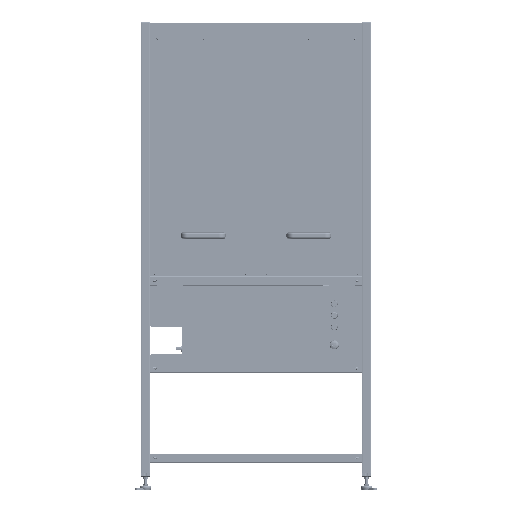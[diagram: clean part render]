
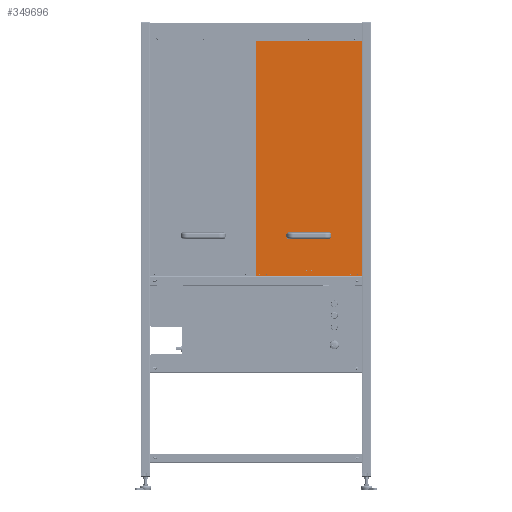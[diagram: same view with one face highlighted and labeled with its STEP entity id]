
A CAD part, top view. The second image highlights one B-rep face of the part: STEP entity #349696.
In plain terms, the highlighted planar face has unit normal (0, 0, 1) as drawn and (1, 0, 0) by its records, which use the part's own axes.
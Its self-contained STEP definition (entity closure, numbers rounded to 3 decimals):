
#11699=FACE_BOUND('',#55969,.T.);
#11700=FACE_BOUND('',#55970,.T.);
#11701=FACE_BOUND('',#55971,.T.);
#11702=FACE_BOUND('',#55972,.T.);
#11703=FACE_BOUND('',#55973,.T.);
#11704=FACE_BOUND('',#55974,.T.);
#11705=FACE_BOUND('',#55975,.T.);
#11706=FACE_BOUND('',#55976,.T.);
#11707=FACE_BOUND('',#55977,.T.);
#11708=FACE_BOUND('',#55978,.T.);
#11709=FACE_BOUND('',#55979,.T.);
#19451=CIRCLE('',#379215,2.05);
#19453=CIRCLE('',#379218,2.05);
#19455=CIRCLE('',#379221,2.05);
#19457=CIRCLE('',#379224,2.05);
#19459=CIRCLE('',#379227,2.05);
#19461=CIRCLE('',#379230,2.05);
#19462=CIRCLE('',#379232,4.);
#19464=CIRCLE('',#379235,4.);
#19466=CIRCLE('',#379238,2.1);
#19468=CIRCLE('',#379241,2.1);
#19470=CIRCLE('',#379244,2.1);
#36157=FACE_OUTER_BOUND('',#55968,.T.);
#55968=EDGE_LOOP('',(#269781,#269782,#269783,#269784));
#55969=EDGE_LOOP('',(#269785));
#55970=EDGE_LOOP('',(#269786));
#55971=EDGE_LOOP('',(#269787));
#55972=EDGE_LOOP('',(#269788));
#55973=EDGE_LOOP('',(#269789));
#55974=EDGE_LOOP('',(#269790));
#55975=EDGE_LOOP('',(#269791));
#55976=EDGE_LOOP('',(#269792));
#55977=EDGE_LOOP('',(#269793));
#55978=EDGE_LOOP('',(#269794));
#55979=EDGE_LOOP('',(#269795));
#82173=LINE('',#548704,#119637);
#82177=LINE('',#548712,#119641);
#82180=LINE('',#548718,#119644);
#82183=LINE('',#548723,#119647);
#119637=VECTOR('',#437162,10.);
#119641=VECTOR('',#437168,10.);
#119644=VECTOR('',#437173,10.);
#119647=VECTOR('',#437178,10.);
#157237=VERTEX_POINT('',#548638);
#157239=VERTEX_POINT('',#548644);
#157241=VERTEX_POINT('',#548650);
#157243=VERTEX_POINT('',#548656);
#157245=VERTEX_POINT('',#548662);
#157247=VERTEX_POINT('',#548668);
#157248=VERTEX_POINT('',#548672);
#157250=VERTEX_POINT('',#548678);
#157252=VERTEX_POINT('',#548684);
#157254=VERTEX_POINT('',#548690);
#157256=VERTEX_POINT('',#548696);
#157258=VERTEX_POINT('',#548702);
#157259=VERTEX_POINT('',#548703);
#157262=VERTEX_POINT('',#548711);
#157264=VERTEX_POINT('',#548717);
#197839=EDGE_CURVE('',#157237,#157237,#19451,.T.);
#197842=EDGE_CURVE('',#157239,#157239,#19453,.T.);
#197845=EDGE_CURVE('',#157241,#157241,#19455,.T.);
#197848=EDGE_CURVE('',#157243,#157243,#19457,.T.);
#197851=EDGE_CURVE('',#157245,#157245,#19459,.T.);
#197854=EDGE_CURVE('',#157247,#157247,#19461,.T.);
#197855=EDGE_CURVE('',#157248,#157248,#19462,.T.);
#197858=EDGE_CURVE('',#157250,#157250,#19464,.T.);
#197861=EDGE_CURVE('',#157252,#157252,#19466,.T.);
#197864=EDGE_CURVE('',#157254,#157254,#19468,.T.);
#197867=EDGE_CURVE('',#157256,#157256,#19470,.T.);
#197870=EDGE_CURVE('',#157258,#157259,#82173,.T.);
#197874=EDGE_CURVE('',#157259,#157262,#82177,.T.);
#197877=EDGE_CURVE('',#157262,#157264,#82180,.T.);
#197880=EDGE_CURVE('',#157264,#157258,#82183,.T.);
#269781=ORIENTED_EDGE('',*,*,#197870,.F.);
#269782=ORIENTED_EDGE('',*,*,#197880,.F.);
#269783=ORIENTED_EDGE('',*,*,#197877,.F.);
#269784=ORIENTED_EDGE('',*,*,#197874,.F.);
#269785=ORIENTED_EDGE('',*,*,#197839,.T.);
#269786=ORIENTED_EDGE('',*,*,#197842,.T.);
#269787=ORIENTED_EDGE('',*,*,#197845,.T.);
#269788=ORIENTED_EDGE('',*,*,#197848,.T.);
#269789=ORIENTED_EDGE('',*,*,#197851,.T.);
#269790=ORIENTED_EDGE('',*,*,#197854,.T.);
#269791=ORIENTED_EDGE('',*,*,#197855,.T.);
#269792=ORIENTED_EDGE('',*,*,#197858,.T.);
#269793=ORIENTED_EDGE('',*,*,#197861,.T.);
#269794=ORIENTED_EDGE('',*,*,#197864,.T.);
#269795=ORIENTED_EDGE('',*,*,#197867,.T.);
#333765=PLANE('',#379250);
#349696=ADVANCED_FACE('',(#36157,#11699,#11700,#11701,#11702,#11703,#11704,
#11705,#11706,#11707,#11708,#11709),#333765,.T.);
#379215=AXIS2_PLACEMENT_3D('',#548640,#437088,#437089);
#379218=AXIS2_PLACEMENT_3D('',#548646,#437095,#437096);
#379221=AXIS2_PLACEMENT_3D('',#548652,#437102,#437103);
#379224=AXIS2_PLACEMENT_3D('',#548658,#437109,#437110);
#379227=AXIS2_PLACEMENT_3D('',#548664,#437116,#437117);
#379230=AXIS2_PLACEMENT_3D('',#548670,#437123,#437124);
#379232=AXIS2_PLACEMENT_3D('',#548673,#437127,#437128);
#379235=AXIS2_PLACEMENT_3D('',#548679,#437134,#437135);
#379238=AXIS2_PLACEMENT_3D('',#548685,#437141,#437142);
#379241=AXIS2_PLACEMENT_3D('',#548691,#437148,#437149);
#379244=AXIS2_PLACEMENT_3D('',#548697,#437155,#437156);
#379250=AXIS2_PLACEMENT_3D('',#548725,#437180,#437181);
#437088=DIRECTION('center_axis',(-1.,0.,0.));
#437089=DIRECTION('ref_axis',(0.,1.,0.));
#437095=DIRECTION('center_axis',(-1.,0.,0.));
#437096=DIRECTION('ref_axis',(0.,1.,0.));
#437102=DIRECTION('center_axis',(-1.,0.,0.));
#437103=DIRECTION('ref_axis',(0.,1.,0.));
#437109=DIRECTION('center_axis',(-1.,0.,0.));
#437110=DIRECTION('ref_axis',(0.,1.,0.));
#437116=DIRECTION('center_axis',(-1.,0.,0.));
#437117=DIRECTION('ref_axis',(0.,1.,0.));
#437123=DIRECTION('center_axis',(-1.,0.,0.));
#437124=DIRECTION('ref_axis',(0.,1.,0.));
#437127=DIRECTION('center_axis',(-1.,0.,0.));
#437128=DIRECTION('ref_axis',(0.,0.,-1.));
#437134=DIRECTION('center_axis',(-1.,0.,0.));
#437135=DIRECTION('ref_axis',(0.,0.,-1.));
#437141=DIRECTION('center_axis',(-1.,0.,0.));
#437142=DIRECTION('ref_axis',(0.,0.,-1.));
#437148=DIRECTION('center_axis',(-1.,0.,0.));
#437149=DIRECTION('ref_axis',(0.,0.,-1.));
#437155=DIRECTION('center_axis',(-1.,0.,0.));
#437156=DIRECTION('ref_axis',(0.,0.,-1.));
#437162=DIRECTION('',(0.,0.,-1.));
#437168=DIRECTION('',(0.,-1.,0.));
#437173=DIRECTION('',(0.,0.,1.));
#437178=DIRECTION('',(0.,1.,0.));
#437180=DIRECTION('center_axis',(1.,0.,0.));
#437181=DIRECTION('ref_axis',(0.,0.,-1.));
#548638=CARTESIAN_POINT('',(6.,-514.55,-213.));
#548640=CARTESIAN_POINT('Origin',(6.,-512.5,-213.));
#548644=CARTESIAN_POINT('',(6.,-514.55,213.));
#548646=CARTESIAN_POINT('Origin',(6.,-512.5,213.));
#548650=CARTESIAN_POINT('',(6.,-498.55,11.));
#548652=CARTESIAN_POINT('Origin',(6.,-496.5,11.));
#548656=CARTESIAN_POINT('',(6.,-498.55,-11.));
#548658=CARTESIAN_POINT('Origin',(6.,-496.5,-11.));
#548662=CARTESIAN_POINT('',(6.,-514.55,182.));
#548664=CARTESIAN_POINT('Origin',(6.,-512.5,182.));
#548668=CARTESIAN_POINT('',(6.,-514.55,-182.));
#548670=CARTESIAN_POINT('Origin',(6.,-512.5,-182.));
#548672=CARTESIAN_POINT('',(6.,-345.,93.5));
#548673=CARTESIAN_POINT('Origin',(6.,-345.,89.5));
#548678=CARTESIAN_POINT('',(6.,-345.,-85.5));
#548679=CARTESIAN_POINT('Origin',(6.,-345.,-89.5));
#548684=CARTESIAN_POINT('',(6.,510.,2.1));
#548685=CARTESIAN_POINT('Origin',(6.,510.,0.));
#548690=CARTESIAN_POINT('',(6.,510.,201.1));
#548691=CARTESIAN_POINT('Origin',(6.,510.,199.));
#548696=CARTESIAN_POINT('',(6.,510.,-196.9));
#548697=CARTESIAN_POINT('Origin',(6.,510.,-199.));
#548702=CARTESIAN_POINT('',(6.,520.,229.));
#548703=CARTESIAN_POINT('',(6.,520.,-229.));
#548704=CARTESIAN_POINT('',(6.,520.,229.));
#548711=CARTESIAN_POINT('',(6.,-520.,-229.));
#548712=CARTESIAN_POINT('',(6.,520.,-229.));
#548717=CARTESIAN_POINT('',(6.,-520.,229.));
#548718=CARTESIAN_POINT('',(6.,-520.,-229.));
#548723=CARTESIAN_POINT('',(6.,-520.,229.));
#548725=CARTESIAN_POINT('Origin',(6.,0.,0.));
